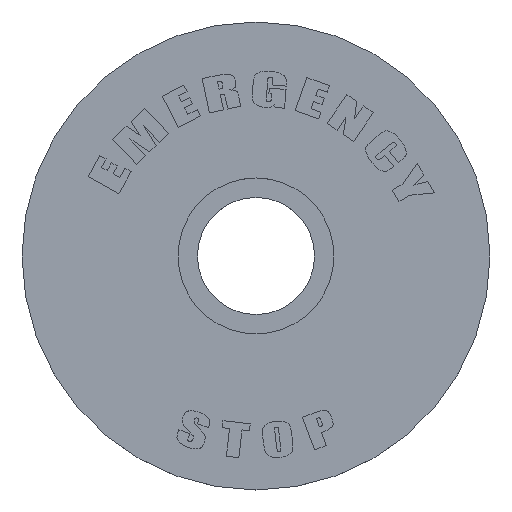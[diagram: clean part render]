
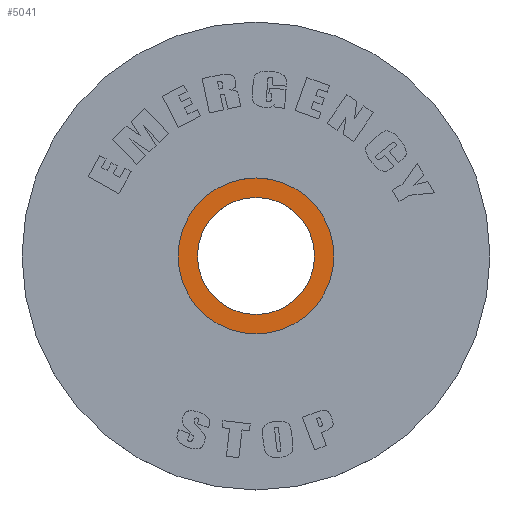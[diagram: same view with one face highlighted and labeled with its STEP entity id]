
A CAD part, top view. The second image highlights one B-rep face of the part: STEP entity #5041.
In plain terms, the highlighted planar face has unit normal (0, 0, 1).
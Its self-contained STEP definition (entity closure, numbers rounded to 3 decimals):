
#317 = DIRECTION ( 'NONE',  ( 1., 0., 0. ) ) ;
#640 = VERTEX_POINT ( 'NONE', #13068 ) ;
#681 = CARTESIAN_POINT ( 'NONE',  ( -11.25, 0., 1.7 ) ) ;
#2057 = DIRECTION ( 'NONE',  ( 0., 0., 1. ) ) ;
#2078 = VERTEX_POINT ( 'NONE', #681 ) ;
#2640 = AXIS2_PLACEMENT_3D ( 'NONE', #12824, #6577, #317 ) ;
#2717 = CARTESIAN_POINT ( 'NONE',  ( 0., 0., 1.7 ) ) ;
#3107 = EDGE_CURVE ( 'NONE', #640, #4418, #7928, .T. ) ;
#3276 = PLANE ( 'NONE',  #5009 ) ;
#3320 = DIRECTION ( 'NONE',  ( 1., 0., 0. ) ) ;
#3750 = DIRECTION ( 'NONE',  ( 1., 0., 0. ) ) ;
#4007 = EDGE_LOOP ( 'NONE', ( #12896, #12752 ) ) ;
#4164 = AXIS2_PLACEMENT_3D ( 'NONE', #8266, #2057, #9322 ) ;
#4267 = CIRCLE ( 'NONE', #12002, 11.25 ) ;
#4418 = VERTEX_POINT ( 'NONE', #13441 ) ;
#4478 = DIRECTION ( 'NONE',  ( 0., 0., 1. ) ) ;
#4527 = VERTEX_POINT ( 'NONE', #9345 ) ;
#5009 = AXIS2_PLACEMENT_3D ( 'NONE', #8492, #9547, #3320 ) ;
#5041 = ADVANCED_FACE ( 'NONE', ( #5702, #8767 ), #3276, .T. ) ;
#5702 = FACE_BOUND ( 'NONE', #8142, .T. ) ;
#5865 = EDGE_CURVE ( 'NONE', #2078, #4527, #6146, .T. ) ;
#6146 = CIRCLE ( 'NONE', #2640, 11.25 ) ;
#6577 = DIRECTION ( 'NONE',  ( 0., 0., 1. ) ) ;
#7427 = EDGE_CURVE ( 'NONE', #4527, #2078, #4267, .T. ) ;
#7928 = CIRCLE ( 'NONE', #12515, 15. ) ;
#8142 = EDGE_LOOP ( 'NONE', ( #9336, #12400 ) ) ;
#8266 = CARTESIAN_POINT ( 'NONE',  ( 0., 0., 1.7 ) ) ;
#8492 = CARTESIAN_POINT ( 'NONE',  ( 0., 0., 1.7 ) ) ;
#8767 = FACE_OUTER_BOUND ( 'NONE', #4007, .T. ) ;
#9322 = DIRECTION ( 'NONE',  ( 1., 0., 0. ) ) ;
#9336 = ORIENTED_EDGE ( 'NONE', *, *, #5865, .F. ) ;
#9345 = CARTESIAN_POINT ( 'NONE',  ( 11.25, 0., 1.7 ) ) ;
#9547 = DIRECTION ( 'NONE',  ( 0., 0., 1. ) ) ;
#10005 = DIRECTION ( 'NONE',  ( 0., 0., 1. ) ) ;
#10738 = CARTESIAN_POINT ( 'NONE',  ( 0., 0., 1.7 ) ) ;
#11786 = DIRECTION ( 'NONE',  ( 1., 0., 0. ) ) ;
#12002 = AXIS2_PLACEMENT_3D ( 'NONE', #10738, #4478, #11786 ) ;
#12400 = ORIENTED_EDGE ( 'NONE', *, *, #7427, .F. ) ;
#12515 = AXIS2_PLACEMENT_3D ( 'NONE', #2717, #10005, #3750 ) ;
#12633 = EDGE_CURVE ( 'NONE', #4418, #640, #13442, .T. ) ;
#12752 = ORIENTED_EDGE ( 'NONE', *, *, #3107, .T. ) ;
#12824 = CARTESIAN_POINT ( 'NONE',  ( 0., 0., 1.7 ) ) ;
#12896 = ORIENTED_EDGE ( 'NONE', *, *, #12633, .T. ) ;
#13068 = CARTESIAN_POINT ( 'NONE',  ( -15., 0., 1.7 ) ) ;
#13441 = CARTESIAN_POINT ( 'NONE',  ( 15., 0., 1.7 ) ) ;
#13442 = CIRCLE ( 'NONE', #4164, 15. ) ;
